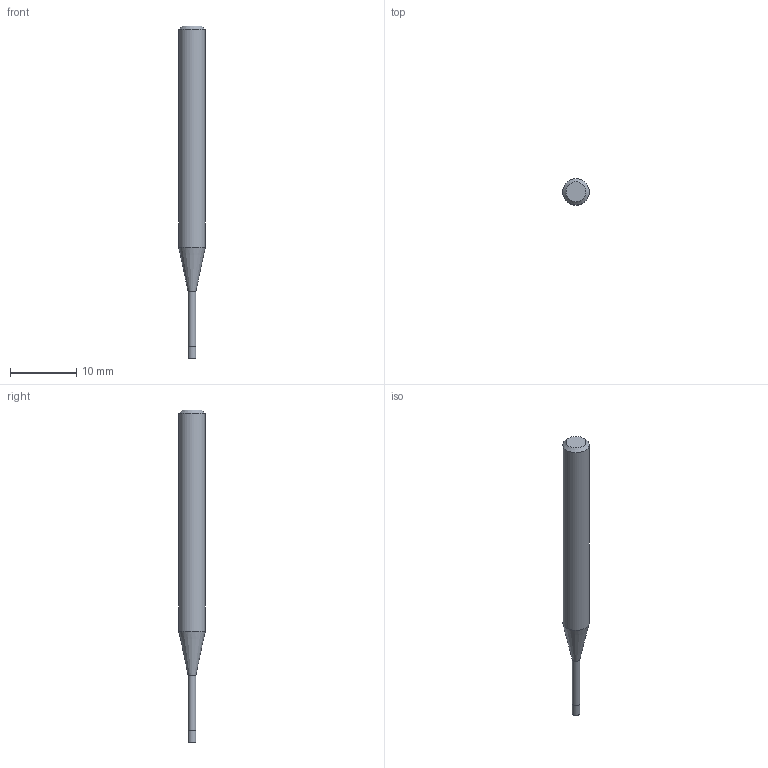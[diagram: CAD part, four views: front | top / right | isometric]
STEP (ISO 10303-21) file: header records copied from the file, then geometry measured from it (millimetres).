
FILE_DESCRIPTION((''),'2;1');
FILE_NAME('C:\Users\nsx150\AppData\Local\Temp\Mastercam 2021\17T8Q8S9EB\TEMP.step','2021-04-21T16:14:28',(''),(''),'STEP Write','Mastercam 2021 ... CNC Software, Inc.','');
FILE_SCHEMA(('AUTOMOTIVE_DESIGN'));
Length unit declared in the file: millimetre
Products named in the file (1): None
Bounding box: 4 x 4 x 50 mm (x, y, z)
Volume: 466 mm3; surface area: 522.1 mm2
Topology: 2 solids, 2 shells, 9 faces, 12 edges, 7 vertices
Faces by surface type: plane 4, cylinder 3, cone 2
Full cylindrical faces by diameter (mm): 1.15 x1, 1.2 x1, 4 x1
Entity records: 211 total; most frequent: DIRECTION 36, CARTESIAN_POINT 25, AXIS2_PLACEMENT_3D 18, ORIENTED_EDGE 14, EDGE_LOOP 14, STYLED_ITEM 12, ADVANCED_FACE 9, FACE_BOUND 8
